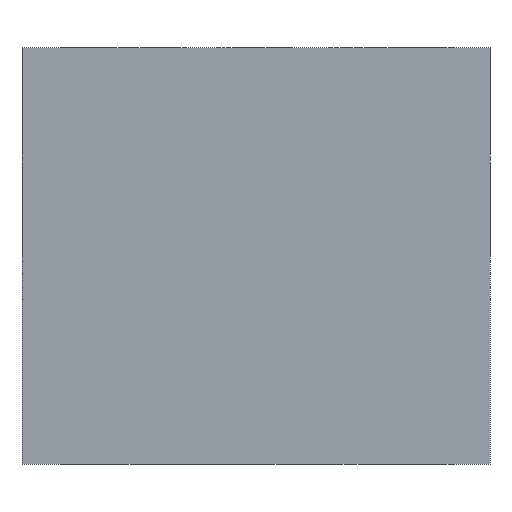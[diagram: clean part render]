
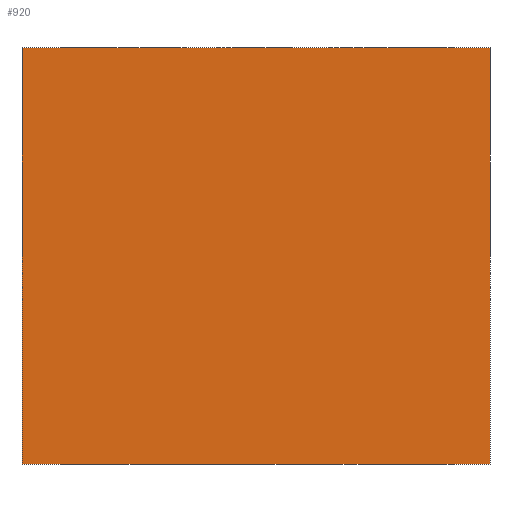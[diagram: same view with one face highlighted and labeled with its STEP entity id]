
A CAD part, front view. The second image highlights one B-rep face of the part: STEP entity #920.
In plain terms, the highlighted planar face has unit normal (0, -1, 0).
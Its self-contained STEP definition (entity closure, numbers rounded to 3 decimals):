
#920=ADVANCED_FACE('', (#930), #940, .T.);
#2860=AXIS2_PLACEMENT_3D('Ax2Pl3d', #2870, #2880, #2890);
#3130=CARTESIAN_POINT('', (0.,0.,40.));
#3140=CARTESIAN_POINT('', (45.,0.,40.));
#3150=CARTESIAN_POINT('', (45.,0.,40.));
#3340=CARTESIAN_POINT('', (45.,0.,0.));
#3350=CARTESIAN_POINT('', (0.,0.,0.));
#3360=CARTESIAN_POINT('', (45.,0.,0.));
#2870=CARTESIAN_POINT('HicPkt', (0.,0.,0.));
#3490=CARTESIAN_POINT('', (45.,0.,40.));
#3500=CARTESIAN_POINT('', (0.,0.,40.));
#5160=DIRECTION('', (1.,0.,0.));
#5190=DIRECTION('', (1.,0.,0.));
#2880=DIRECTION('Axis', (0.,-1.,0.)
);
#2890=DIRECTION('RefDirection', (0.,
0.,-1.));
#5230=DIRECTION('', (0.,0.,1.));
#5240=DIRECTION('', (0.,0.,1.));
#5350=EDGE_CURVE('', #5330, #5360, #5370, .T.);
#5730=EDGE_CURVE('', #5740, #5750, #5760, .T.);
#5990=EDGE_CURVE('', #5750, #5360, #6000, .T.);
#6010=EDGE_CURVE('', #5740, #5330, #6020, .T.);
#7130=EDGE_LOOP('Edge_loop', (#7140,#7150,#7160,#7170));
#930=FACE_OUTER_BOUND('Face_outer_bound', #7130, .T.);
#5370=LINE('Line', #3140, #8060);
#5760=LINE('Line', #3340, #8090);
#6000=LINE('Line', #3490, #8130);
#6020=LINE('Line', #3500, #8140);
#7140=ORIENTED_EDGE('', *, *, #5730, .T.);
#7150=ORIENTED_EDGE('', *, *, #5990, .T.);
#7160=ORIENTED_EDGE('', *, *, #5350, .F.);
#7170=ORIENTED_EDGE('', *, *, #6010, .F.);
#940=PLANE('Plane', #2860);
#8060=VECTOR('', #5160, 45.);
#8090=VECTOR('', #5190, 45.);
#8130=VECTOR('', #5230, 40.);
#8140=VECTOR('', #5240, 40.);
#5330=VERTEX_POINT('', #3130);
#5360=VERTEX_POINT('', #3150);
#5740=VERTEX_POINT('', #3350);
#5750=VERTEX_POINT('', #3360);
